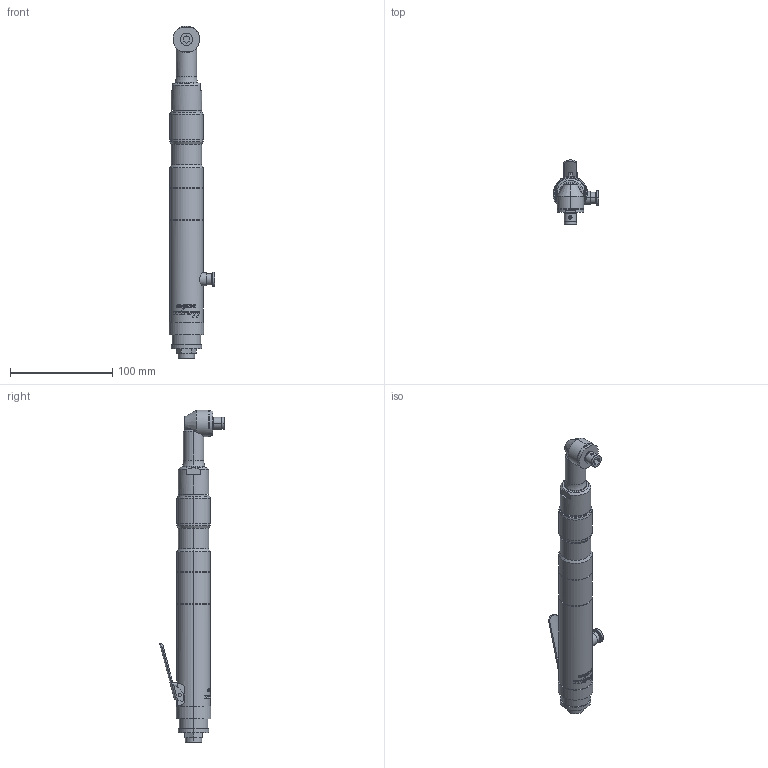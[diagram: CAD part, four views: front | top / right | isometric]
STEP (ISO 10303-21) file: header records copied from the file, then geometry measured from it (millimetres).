
FILE_DESCRIPTION (( 'STEP AP203' ), '1' );
FILE_NAME ('US-LT40B-05C.STEP', '2006-03-22T04:12:25', ( '' ), ( '' ), 'SwSTEP 2.0', 'SolidWorks 2003240', '' );
FILE_SCHEMA (( 'CONFIG_CONTROL_DESIGN' ));
Length unit declared in the file: millimetre
Products named in the file (9): 4613698_US-LT40B-05C_蹬怮椔; US-LT40B-05C; 4614303_US-LT40B-05C_蹬怮椔; 4614418_US-LT40B-05C_蹬怮椔; 4610256_US-LT40B-05C_蹬怮椔; 4611146_US-LT40B-05C_蹬怮椔; 7001071_US-LT40B-05C_蹬怮椔; 8930571_US-LT40B-05C_蹬怮椔; 9810020_US-LT40B-05C_蹬怮椔
Assembly tree (8 placements, depth 2):
  US-LT40B-05C
    8930571_US-LT40B-05C_蹬怮椔
    7001071_US-LT40B-05C_蹬怮椔
    4611146_US-LT40B-05C_蹬怮椔
    4614303_US-LT40B-05C_蹬怮椔
    4614418_US-LT40B-05C_蹬怮椔
    4610256_US-LT40B-05C_蹬怮椔
    9810020_US-LT40B-05C_蹬怮椔
    4613698_US-LT40B-05C_蹬怮椔
Bounding box: 45 x 63.18 x 325 mm (x, y, z)
Volume: 237516.5 mm3; surface area: 42279.3 mm2
Topology: 8 solids, 8 shells, 491 faces, 1241 edges, 813 vertices
Faces by surface type: plane 174, cylinder 171, bspline 115, cone 25, sphere 4, torus 2
Entity records: 23190 total; most frequent: CARTESIAN_POINT 11389, ORIENTED_EDGE 2472, DIRECTION 1884, EDGE_CURVE 1236, VERTEX_POINT 810, AXIS2_PLACEMENT_3D 693, EDGE_LOOP 546, LINE 498
